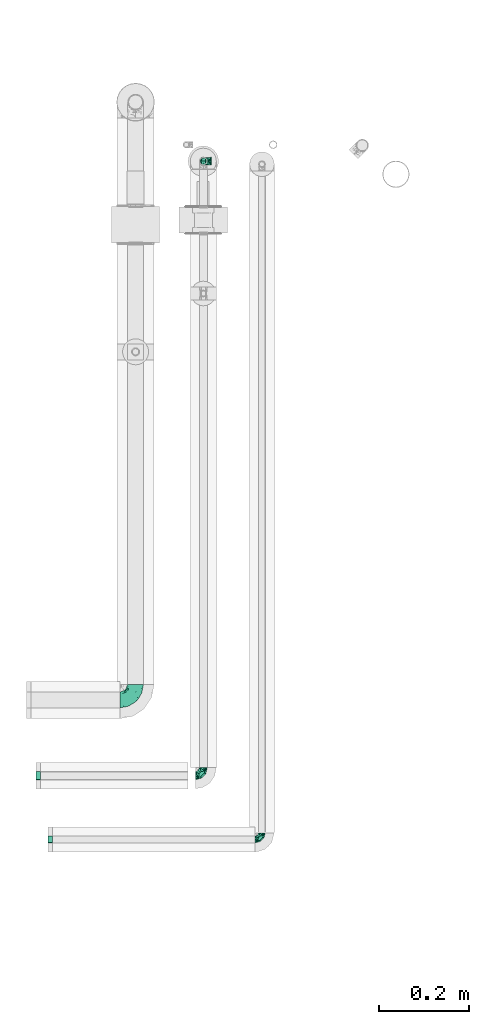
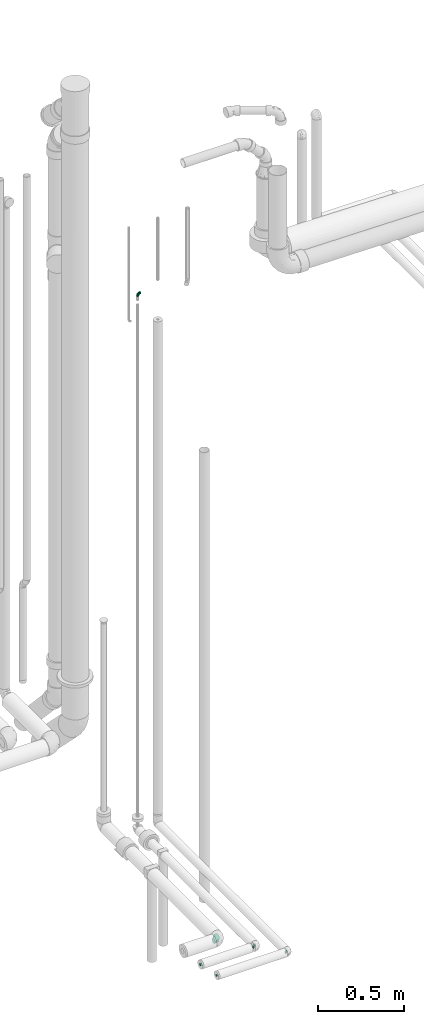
# One storey, part 39 of 78: 6 flow fittings.
"""IFC2X3 building model written with IfcOpenShell, lengths in millimetres."""

import ifcopenshell
import ifcopenshell.guid

model = None  # the IFC model being written
_history = None  # IfcOwnerHistory: only IFC2X3 demands one
_inside = {}  # id of a spatial element -> (the spatial element, [elements in it])
_under = {}  # id of a project, library or spatial element -> (it, [spatial elements below it])
_declared = {}  # id of a project -> (the project, [libraries it declares])
_typed = {}  # id of a type object -> (the type object, [elements of that type])
_made_of = {}  # id of a material, layer set ... -> (it, [elements and type objects made of it])


def new_model(schema):
    """Start an empty IFC model of exactly this schema.

    Asked for "IFC4X3", IfcOpenShell would pick the latest addendum, in which some entities
    have other attributes; the version numbers below select the first issue.
    IFC2X3 requires an IfcOwnerHistory on every rooted entity: one is made here for all.
    """
    global model, _history
    if schema == "IFC4X3":
        model = ifcopenshell.file(schema_version=(4, 3, 0, 0))
    else:
        model = ifcopenshell.file(schema=schema)
    _inside.clear()
    _under.clear()
    _declared.clear()
    _typed.clear()
    _made_of.clear()
    _history = None
    if model.schema == "IFC2X3":
        org = make("IfcOrganization", Name="unknown")
        user = make(
            "IfcPersonAndOrganization",
            ThePerson=make("IfcPerson", FamilyName="unknown"),
            TheOrganization=org,
        )
        app = make(
            "IfcApplication",
            ApplicationDeveloper=org,
            Version="unknown",
            ApplicationFullName="unknown",
            ApplicationIdentifier="unknown",
        )
        _history = make(
            "IfcOwnerHistory",
            OwningUser=user,
            OwningApplication=app,
            ChangeAction="ADDED",
            CreationDate=0,
        )
    return model


def make(cls, **values):
    """One entity of the class cls with the attributes given. An attribute that is None is left unset."""
    return model.create_entity(
        cls, **{name: value for name, value in values.items() if value is not None}
    )


def entity(cls, *values):
    """Any entity or typed value of the class cls, its attributes in the order of the schema. None: left unset."""
    e = model.create_entity(cls)
    for i, value in enumerate(values):
        if value is not None:
            e[i] = value
    return e


def rooted(cls, **values):
    """An entity with a GlobalId (a new one), such as an element, a storey or a relation."""
    return make(cls, GlobalId=ifcopenshell.guid.new(), OwnerHistory=_history, **values)


def si_unit(unit_type, name, prefix=None):
    """IfcSIUnit, for example si_unit("LENGTHUNIT", "METRE", prefix="MILLI")."""
    return make("IfcSIUnit", UnitType=unit_type, Prefix=prefix, Name=name)


def converted_unit(unit_type, name, factor, base, dimensions=None, offset=None):
    """IfcConversionBasedUnit, such as the inch: factor (a typed value) times the base unit."""
    return make(
        "IfcConversionBasedUnit"
        if offset is None
        else "IfcConversionBasedUnitWithOffset",
        ConversionOffset=offset,
        Dimensions=None
        if dimensions is None
        else entity("IfcDimensionalExponents", *dimensions),
        UnitType=unit_type,
        Name=name,
        ConversionFactor=make(
            "IfcMeasureWithUnit", ValueComponent=factor, UnitComponent=base
        ),
    )


def derived_unit(unit_type, elements):
    """IfcDerivedUnit: a product of units, each with its exponent."""
    return make(
        "IfcDerivedUnit",
        Elements=[
            make("IfcDerivedUnitElement", Unit=unit, Exponent=power)
            for unit, power in elements
        ],
        UnitType=unit_type,
    )


def assignment(units):
    """IfcUnitAssignment: the units of a project."""
    return None if units is None else make("IfcUnitAssignment", Units=units)


def point(xyz):
    """IfcCartesianPoint."""
    return None if xyz is None else make("IfcCartesianPoint", Coordinates=xyz)


def direction(xyz):
    """IfcDirection."""
    return None if xyz is None else make("IfcDirection", DirectionRatios=xyz)


def frame(location, z_axis=None, x_axis=None):
    """IfcAxis2Placement3D, a coordinate frame: its origin and axes. An axis left out is left unset."""
    return make(
        "IfcAxis2Placement3D",
        Location=point(location),
        Axis=direction(z_axis),
        RefDirection=direction(x_axis),
    )


def origin_with_axes():
    """The frame at (0, 0, 0) with the z axis (0, 0, 1) and the x axis (1, 0, 0) written out."""
    return frame((0.0, 0.0, 0.0), z_axis=(0.0, 0.0, 1.0), x_axis=(1.0, 0.0, 0.0))


def place(relative_to, where):
    """IfcLocalPlacement: puts the frame where relative to a parent placement (None: the world)."""
    return make(
        "IfcLocalPlacement", PlacementRelTo=relative_to, RelativePlacement=where
    )


def context(
    kind, dimensions, precision=None, world=None, true_north=None, identifier=None
):
    """IfcGeometricRepresentationContext, for example the 3D "Model" context."""
    return make(
        "IfcGeometricRepresentationContext",
        ContextIdentifier=identifier,
        ContextType=kind,
        CoordinateSpaceDimension=dimensions,
        Precision=precision,
        WorldCoordinateSystem=world,
        TrueNorth=true_north,
    )


def subcontext(parent, identifier, kind, view, scale=None):
    """IfcGeometricRepresentationSubContext, for example "Body" below "Model"."""
    return make(
        "IfcGeometricRepresentationSubContext",
        ContextIdentifier=identifier,
        ContextType=kind,
        ParentContext=parent,
        TargetScale=scale,
        TargetView=view,
    )


def project(units=None, contexts=None):
    """IfcProject with its units and contexts."""
    return rooted(
        "IfcProject",
        Name="project",
        RepresentationContexts=contexts,
        UnitsInContext=assignment(units),
    )


def spatial(cls, under=None, at=None, **own):
    """A site, building, storey or space (cls), placed at a placement, below another one or the project."""
    s = rooted(cls, ObjectPlacement=at, **own)
    if under is not None:
        _under.setdefault(under.id(), (under, []))[1].append(s)
    return s


def faces_of(points, faces, orient=None, outer=None):
    """IfcFace entities. A face is a list of loops; a loop is a list of indices into points, from 0.

    orient and outer hold one flag for each loop. By default every Orientation is true, the
    first loop of a face is its IfcFaceOuterBound and the others are IfcFaceBound.
    """
    made = []
    for i, loops in enumerate(faces):
        bounds = []
        for j, loop in enumerate(loops):
            is_outer = j == 0 if outer is None else outer[i][j]
            bounds.append(
                make(
                    "IfcFaceOuterBound" if is_outer else "IfcFaceBound",
                    Bound=make("IfcPolyLoop", Polygon=[points[k] for k in loop]),
                    Orientation=True if orient is None else orient[i][j],
                )
            )
        made.append(make("IfcFace", Bounds=bounds))
    return made


def open_shell(faces, orient=None, outer=None):
    """The faces of one IfcOpenShell. surface_model builds it on its shared points."""
    return ("IfcOpenShell", faces, orient, outer)


def surface_model(cls, points, shells):
    """IfcFaceBasedSurfaceModel or IfcShellBasedSurfaceModel (cls): surfaces that need not close."""
    shared = [point(p) for p in points]
    made = [make(c, CfsFaces=faces_of(shared, fs, o, b)) for c, fs, o, b in shells]
    if cls == "IfcFaceBasedSurfaceModel":
        return make(cls, FbsmFaces=made)
    return make(cls, SbsmBoundary=made)


def shape(context_of_items, identifier, shape_type, items):
    """IfcShapeRepresentation: the items that make up one representation, for example the "Body"."""
    return make(
        "IfcShapeRepresentation",
        ContextOfItems=context_of_items,
        RepresentationIdentifier=identifier,
        RepresentationType=shape_type,
        Items=items,
    )


def source(mapping_origin, context_of_items, identifier, shape_type, items):
    """IfcRepresentationMap: a shape defined once, which mapped items show again and again."""
    return make(
        "IfcRepresentationMap",
        MappingOrigin=mapping_origin,
        MappedRepresentation=shape(context_of_items, identifier, shape_type, items),
    )


def transform(
    local_origin,
    x_axis=None,
    y_axis=None,
    z_axis=None,
    scale=None,
    scale2=None,
    scale3=None,
    uniform=True,
):
    """IfcCartesianTransformationOperator3D, or its non-uniform kind. x_axis, y_axis, z_axis: its Axis1, 2, 3."""
    if uniform:
        return make(
            "IfcCartesianTransformationOperator3D",
            Axis1=direction(x_axis),
            Axis2=direction(y_axis),
            LocalOrigin=point(local_origin),
            Scale=scale,
            Axis3=direction(z_axis),
        )
    return make(
        "IfcCartesianTransformationOperator3DnonUniform",
        Axis1=direction(x_axis),
        Axis2=direction(y_axis),
        LocalOrigin=point(local_origin),
        Scale=scale,
        Axis3=direction(z_axis),
        Scale2=scale2,
        Scale3=scale3,
    )


def mapped(mapping_source, mapping_target):
    """IfcMappedItem: shows the shape of a source again, moved by a transform."""
    return make(
        "IfcMappedItem", MappingSource=mapping_source, MappingTarget=mapping_target
    )


def made_of(thing, what):
    """Note that an element or type object is made of a material, layer set ...; save() writes the relation."""
    if what is not None:
        _made_of.setdefault(what.id(), (what, []))[1].append(thing)
    return thing


def type_object(cls, material=None, **own):
    """A type object (cls), such as IfcWallType, which elements share."""
    return made_of(rooted(cls, **own), material)


def element(
    cls,
    number,
    at=None,
    inside=None,
    cuts=None,
    type_object=None,
    material=None,
    context=None,
    identifier="Body",
    shape_type=None,
    held_by="IfcProductDefinitionShape",
    body=None,
    shapes=None,
    **own,
):
    """One element of the class cls, such as IfcWall. Its Tag is "e" and its number.

    at: its placement. inside: the storey or other place that contains it. cuts: it is an
    opening in that element (IfcRelVoidsElement). A single representation is given by context,
    identifier, shape_type and body (its items); several are given by shapes. held_by: the class
    of the entity that holds the representations. save() writes the other relations.
    """
    e = rooted(cls, Tag="e%d" % number, ObjectPlacement=at, **own)
    if body is not None:
        shapes = [shape(context, identifier, shape_type, body)]
    if shapes is not None:
        e.Representation = make(held_by, Representations=shapes)
    if inside is not None:
        _inside.setdefault(inside.id(), (inside, []))[1].append(e)
    if cuts is not None:
        rooted(
            "IfcRelVoidsElement", RelatingBuildingElement=cuts, RelatedOpeningElement=e
        )
    if type_object is not None:
        _typed.setdefault(type_object.id(), (type_object, []))[1].append(e)
    return made_of(e, material)


def aggregate(whole, parts):
    """IfcRelAggregates: a whole, such as a stair, and the parts it consists of."""
    return rooted("IfcRelAggregates", RelatingObject=whole, RelatedObjects=parts)


def save(model, path):
    """Write the relations noted so far, then the file.

    IfcRelAggregates (storeys below a building ...), IfcRelContainedInSpatialStructure (elements
    in a storey), IfcRelDefinesByType, IfcRelAssociatesMaterial and IfcRelDeclares: one each for
    every whole, place, type object, material and project.
    """
    for whole, parts in _under.values():
        aggregate(whole, parts)
    for where, things in _inside.values():
        rooted(
            "IfcRelContainedInSpatialStructure",
            RelatedElements=things,
            RelatingStructure=where,
        )
    for kind, things in _typed.values():
        rooted("IfcRelDefinesByType", RelatedObjects=things, RelatingType=kind)
    for what, things in _made_of.values():
        rooted("IfcRelAssociatesMaterial", RelatedObjects=things, RelatingMaterial=what)
    for by, libraries in _declared.values():
        rooted("IfcRelDeclares", RelatingContext=by, RelatedDefinitions=libraries)
    model.write(path)


model = new_model("IFC2X3")

# Units and contexts
model_context = context("Model", 3, precision=0.01, world=frame((0.0, 4.29681676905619e-09, 0.0)), true_north=direction((4.01073788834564e-13, 1.0)))
plan_context = context("Plan", 3, precision=0.01, world=frame((0.0, 4.29681676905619e-09, 0.0)), true_north=direction((4.01073788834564e-13, 1.0)))
body_context = subcontext(model_context, "Body", "Model", "MODEL_VIEW")
ifc_project = project(units=[converted_unit("PLANEANGLEUNIT", "DEGREE", entity("IfcPositiveLengthMeasure", 0.0174532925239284), si_unit("PLANEANGLEUNIT", "RADIAN"), dimensions=[0, 0, 0, 0, 0, 0, 0]), si_unit("AREAUNIT", "SQUARE_METRE"), si_unit("LENGTHUNIT", "METRE", prefix="MILLI"), si_unit("MASSUNIT", "GRAM", prefix="KILO"), si_unit("POWERUNIT", "WATT"), si_unit("PRESSUREUNIT", "PASCAL"), si_unit("FORCEUNIT", "NEWTON", prefix="KILO"), si_unit("ELECTRICVOLTAGEUNIT", "VOLT"), si_unit("ELECTRICCURRENTUNIT", "AMPERE"), si_unit("THERMODYNAMICTEMPERATUREUNIT", "DEGREE_CELSIUS"), si_unit("TIMEUNIT", "SECOND"), si_unit("VOLUMEUNIT", "CUBIC_METRE"), derived_unit("LINEARVELOCITYUNIT", [(si_unit("LENGTHUNIT", "METRE"), 1), (si_unit("TIMEUNIT", "SECOND"), -1)]), derived_unit("VOLUMETRICFLOWRATEUNIT", [(si_unit("VOLUMEUNIT", "CUBIC_METRE"), 1), (si_unit("TIMEUNIT", "SECOND"), -1)]), derived_unit("THERMALTRANSMITTANCEUNIT", [(si_unit("POWERUNIT", "WATT"), 1), (si_unit("THERMODYNAMICTEMPERATUREUNIT", "KELVIN"), -1), (si_unit("AREAUNIT", "SQUARE_METRE"), -1)]), derived_unit("SOUNDPRESSUREUNIT", [(si_unit("PRESSUREUNIT", "PASCAL"), 1)])], contexts=[model_context, plan_context])

# Site, building, storey
site_placement = place(None, frame((0.0, -4.29681676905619e-09, 0.0), z_axis=(0.0, 0.0, 1.0), x_axis=(1.0, 0.0, 0.0)))
site = spatial("IfcSite", under=ifc_project, at=site_placement, Name="ENGM", CompositionType="ELEMENT")
building_placement = place(site_placement, frame((0.0, 4.29681676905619e-09, 0.0), z_axis=(0.0, 0.0, 1.0), x_axis=(1.0, 0.0, 0.0)))
building = spatial("IfcBuilding", under=site, at=building_placement, Name="TH", CompositionType="ELEMENT")
storey_placement = place(building_placement, frame((0.0, 0.0, 205200.0), z_axis=(0.0, 0.0, 1.0), x_axis=(1.0, 0.0, 0.0)))
storey = spatial("IfcBuildingStorey", under=building, at=storey_placement, Name="Nivå D + 1,2 m", CompositionType="ELEMENT", Elevation=205200.0)

# Flow fittings
pipe_fitting_type_1 = type_object("IfcPipeFittingType", Name="magi_pipe_cu_elbow_short_001", PredefinedType="BEND")
shared_shape_1 = source(origin_with_axes(), body_context, "Body", "SurfaceModel", [
    surface_model("IfcShellBasedSurfaceModel", [(-18.0, 4.5, -7.79423), (-18.0, 2.32937, -8.69333), (-18.0, 0.0, -9.0), (-18.0, -6.36396, -6.36396), (-18.0, 8.69333, -2.32937), (-18.0, 7.79423, -4.5), (-18.0, 6.36396, -6.36396), (-18.0, -4.5, -7.79423), (-18.0, -2.32937, -8.69333), (-18.0, -7.79423, -4.5), (-18.0, -8.69333, -2.32937), (-18.0, -9.0, 0.0), (-18.0, 8.69333, 2.32937), (-18.0, -8.69333, 2.32937), (-18.0, 7.79423, 4.5), (-18.0, 6.36396, 6.36396), (-18.0, 2.32937, 8.69333), (-18.0, 4.5, 7.79423), (-18.0, -7.79423, 4.5), (-18.0, -6.36396, 6.36396), (-18.0, -4.5, 7.79423), (-18.0, -2.32937, 8.69333), (-18.0, 0.0, 9.0), (-18.0, 9.0, 0.0), (0.0, 18.0, -9.0), (-2.32937, 18.0, -8.69333), (-4.5, 18.0, -7.79423), (6.36396, 18.0, -6.36396), (-6.36396, 18.0, -6.36396), (-7.79423, 18.0, -4.5), (-8.69333, 18.0, -2.32937), (-8.69333, 18.0, 2.32937), (2.32937, 18.0, -8.69333), (4.5, 18.0, -7.79423), (8.69333, 18.0, -2.32937), (7.79423, 18.0, -4.5), (9.0, 18.0, 0.0), (7.79423, 18.0, 4.5), (-9.0, 18.0, 0.0), (-6.36396, 18.0, 6.36396), (-7.79423, 18.0, 4.5), (-4.5, 18.0, 7.79423), (-2.32937, 18.0, 8.69333), (6.36396, 18.0, 6.36396), (8.69333, 18.0, 2.32937), (2.32937, 18.0, 8.69333), (4.5, 18.0, 7.79423), (0.0, 18.0, 9.0), (-16.09014, -8.48825, 0.0), (-10.51068, -2.97249, 7.92278), (-10.36056, -6.95302, 0.0), (-4.5, -5.38269, 0.0), (0.44134, -0.44134, 0.0), (2.91201, 2.02933, 0.0), (-2.70211, 1.18586, 7.65564), (-2.02933, -2.91201, 0.0), (-14.18028, -7.97651, 0.0), (-7.11648, 7.11648, 8.61373), (-4.93977, 9.63211, 8.64898), (2.97249, 10.51068, 7.92278), (2.01286, 5.84889, 7.1903), (5.38269, 4.5, 0.0), (-5.73616, -2.07922, 7.10204), (8.48825, 16.09014, 0.0), (7.97651, 14.18028, 0.0), (-9.63211, 4.93977, 8.64898), (-10.31802, 14.81802, 0.0), (-14.81802, 10.31802, 0.0), (-11.63604, 11.63604, 0.0), (6.95302, 10.36056, 0.0), (-10.51068, -2.97249, -7.92278), (-4.93977, 9.63211, -8.64898), (0.8585, 4.1248, -7.1903), (-2.68792, 2.14037, -8.03971), (2.97249, 10.51068, -7.92278), (-13.67048, 7.29638, -6.27272), (-8.50355, 2.18787, -8.98901), (-9.83427, 8.11209, -7.36254)], [open_shell([[[0, 1, 2]], [[0, 2, 3]], [[0, 4, 5]], [[6, 0, 5]], [[4, 0, 3]], [[7, 3, 8]], [[3, 2, 8]], [[9, 10, 3]], [[11, 3, 10]], [[3, 11, 4]], [[11, 12, 4]], [[12, 11, 13]], [[14, 12, 15]], [[16, 17, 15]], [[13, 15, 12]], [[15, 18, 16]], [[18, 19, 16]], [[15, 13, 18]], [[20, 21, 19]], [[22, 19, 21]], [[16, 19, 22]], [[23, 4, 12]], [[24, 25, 26]], [[27, 24, 26]], [[28, 29, 30]], [[28, 30, 26]], [[26, 31, 27]], [[32, 27, 33]], [[32, 24, 27]], [[27, 34, 35]], [[34, 27, 36]], [[27, 37, 36]], [[26, 30, 38]], [[27, 31, 37]], [[39, 31, 40]], [[39, 41, 42]], [[39, 42, 31]], [[43, 31, 42]], [[31, 43, 37]], [[44, 36, 37]], [[43, 45, 46]], [[45, 43, 47]], [[47, 43, 42]], [[31, 26, 38]], [[13, 48, 18]], [[49, 50, 51]], [[52, 53, 54]], [[54, 55, 52]], [[20, 19, 56]], [[18, 56, 19]], [[57, 54, 58]], [[20, 50, 21]], [[22, 21, 50]], [[59, 60, 61]], [[59, 58, 60]], [[55, 54, 62]], [[22, 50, 49]], [[22, 49, 16]], [[62, 49, 51]], [[62, 51, 55]], [[37, 63, 44]], [[49, 17, 16]], [[64, 63, 37]], [[12, 65, 23]], [[14, 15, 49]], [[54, 65, 62]], [[17, 49, 15]], [[58, 38, 66]], [[67, 57, 68]], [[53, 60, 54]], [[45, 47, 69]], [[69, 46, 45]], [[39, 59, 41]], [[42, 59, 47]], [[43, 46, 64]], [[68, 57, 66]], [[64, 46, 69]], [[61, 60, 53]], [[44, 63, 36]], [[59, 61, 69]], [[38, 58, 31]], [[20, 56, 50]], [[54, 57, 65]], [[49, 65, 14]], [[66, 57, 58]], [[64, 37, 43]], [[40, 31, 58]], [[14, 65, 12]], [[39, 40, 59]], [[13, 11, 48]], [[40, 58, 59]], [[48, 56, 18]], [[41, 59, 42]], [[59, 69, 47]], [[49, 62, 65]], [[57, 67, 65]], [[54, 60, 58]], [[67, 23, 65]], [[70, 50, 2]], [[71, 72, 73]], [[74, 71, 29]], [[70, 1, 0]], [[70, 51, 50]], [[34, 36, 63]], [[75, 6, 5]], [[75, 4, 23]], [[5, 4, 75]], [[51, 76, 55]], [[75, 23, 67]], [[70, 6, 75]], [[48, 11, 10]], [[7, 56, 3]], [[2, 50, 8]], [[51, 70, 76]], [[56, 7, 50]], [[7, 8, 50]], [[70, 2, 1]], [[66, 38, 71]], [[52, 72, 53]], [[6, 70, 0]], [[70, 75, 76]], [[73, 52, 55]], [[71, 68, 66]], [[61, 53, 72]], [[33, 64, 69]], [[30, 71, 38]], [[28, 74, 29]], [[56, 9, 3]], [[26, 25, 74]], [[63, 64, 35]], [[56, 48, 9]], [[26, 74, 28]], [[9, 48, 10]], [[24, 74, 25]], [[32, 69, 24]], [[29, 71, 30]], [[27, 64, 33]], [[69, 32, 33]], [[68, 71, 77]], [[74, 24, 69]], [[35, 34, 63]], [[61, 72, 74]], [[61, 74, 69]], [[67, 77, 75]], [[74, 72, 71]], [[35, 64, 27]], [[76, 77, 73]], [[75, 77, 76]], [[77, 71, 73]], [[55, 76, 73]], [[72, 52, 73]], [[77, 67, 68]]])]),
])
for number, where, z_axis, x_axis, name in (
    (1, (895520.48466, 478549.2375, 8240.0), (0.0, 1.0, 0.0), (0.0, 0.0, 1.0), "magi_pipe_cu_elbow_short_001"),
    (2, (895520.48466, 477179.63068, 4450.0), (0.0, 0.0, 1.0), (1.0, 0.0, 0.0), "magi_pipe_cu_elbow_short_001"),
):
    element("IfcFlowFitting", number, at=place(storey_placement, frame(where, z_axis=z_axis, x_axis=x_axis)), inside=storey, type_object=pipe_fitting_type_1, Name=name, context=body_context, shape_type="MappedRepresentation", body=[
        mapped(shared_shape_1, transform((0.0, 0.0, 0.0), scale=1.0)),
    ])
pipe_fitting_type_2 = type_object("IfcPipeFittingType", Name="magi_pipe_cu_joint_001", PredefinedType="CONNECTOR")
shared_shape_2 = source(origin_with_axes(), body_context, "Body", "SurfaceModel", [
    surface_model("IfcShellBasedSurfaceModel", [(0.0, 4.5, -7.79423), (0.0, 2.32937, -8.69333), (0.0, 0.0, -9.0), (0.0, -9.0, 0.0), (0.0, -4.5, 7.79423), (0.0, 6.36396, -6.36396), (0.0, 7.79423, -4.5), (0.0, 9.0, 0.0), (0.0, -4.5, -7.79423), (0.0, -6.36396, -6.36396), (0.0, -2.32937, -8.69333), (0.0, -7.79423, -4.5), (0.0, -8.69333, -2.32937), (0.0, 8.69333, -2.32937), (0.0, 8.69333, 2.32937), (0.0, 2.32937, 8.69333), (0.0, 7.79423, 4.5), (0.0, 4.5, 7.79423), (0.0, 6.36396, 6.36396), (0.0, 0.0, 9.0), (0.0, -6.36396, 6.36396), (0.0, -7.79423, 4.5), (0.0, -8.69333, 2.32937), (0.0, -2.32937, 8.69333), (10.0, 0.0, -9.0), (10.0, 2.32937, -8.69333), (10.0, 4.5, -7.79423), (10.0, -9.0, 0.0), (10.0, -4.5, 7.79423), (10.0, 7.79423, -4.5), (10.0, 6.36396, -6.36396), (10.0, 8.69333, 2.32937), (10.0, -4.5, -7.79423), (10.0, -2.32937, -8.69333), (10.0, -6.36396, -6.36396), (10.0, -8.69333, -2.32937), (10.0, -7.79423, -4.5), (10.0, 8.69333, -2.32937), (10.0, 9.0, 0.0), (10.0, 2.32937, 8.69333), (10.0, 7.79423, 4.5), (10.0, 4.5, 7.79423), (10.0, 6.36396, 6.36396), (10.0, -7.79423, 4.5), (10.0, -6.36396, 6.36396), (10.0, -8.69333, 2.32937), (10.0, 0.0, 9.0), (10.0, -2.32937, 8.69333)], [open_shell([[[0, 1, 2]], [[2, 3, 4]], [[0, 2, 4]], [[5, 0, 6]], [[7, 6, 0]], [[8, 9, 10]], [[9, 2, 10]], [[11, 12, 9]], [[3, 9, 12]], [[9, 3, 2]], [[7, 13, 6]], [[14, 7, 15]], [[16, 14, 15]], [[16, 15, 17]], [[18, 16, 17]], [[19, 15, 7]], [[20, 4, 21]], [[3, 22, 21]], [[23, 19, 4]], [[21, 4, 3]], [[0, 4, 19]], [[19, 7, 0]], [[24, 25, 26]], [[27, 24, 26]], [[27, 26, 28]], [[29, 26, 30]], [[26, 29, 31]], [[24, 32, 33]], [[24, 34, 32]], [[34, 35, 36]], [[35, 34, 27]], [[24, 27, 34]], [[29, 37, 38]], [[28, 26, 31]], [[39, 31, 40]], [[41, 39, 40]], [[41, 40, 42]], [[28, 31, 39]], [[43, 28, 44]], [[43, 45, 27]], [[28, 46, 47]], [[27, 28, 43]], [[39, 46, 28]], [[29, 38, 31]], [[45, 3, 27]], [[43, 22, 45]], [[20, 44, 28]], [[43, 44, 21]], [[4, 28, 47]], [[43, 21, 22]], [[22, 3, 45]], [[23, 46, 19]], [[23, 4, 47]], [[20, 28, 4]], [[20, 21, 44]], [[46, 23, 47]], [[41, 15, 39]], [[42, 17, 41]], [[16, 40, 31]], [[42, 40, 18]], [[14, 31, 38]], [[41, 17, 15]], [[15, 19, 39]], [[14, 16, 31]], [[18, 40, 16]], [[18, 17, 42]], [[7, 14, 38]], [[39, 19, 46]], [[37, 7, 38]], [[29, 13, 37]], [[5, 30, 26]], [[29, 30, 6]], [[0, 26, 25]], [[29, 6, 13]], [[13, 7, 37]], [[1, 24, 2]], [[1, 0, 25]], [[5, 26, 0]], [[5, 6, 30]], [[24, 1, 25]], [[32, 10, 33]], [[34, 8, 32]], [[11, 36, 35]], [[34, 36, 9]], [[12, 35, 27]], [[32, 8, 10]], [[10, 2, 33]], [[12, 11, 35]], [[9, 36, 11]], [[9, 8, 34]], [[3, 12, 27]], [[33, 2, 24]]])]),
])
flow_fitting_1_placement = place(storey_placement, frame((895147.49734, 477179.65305, 4450.0), z_axis=(0.0, 0.0, 1.0), x_axis=(1.0, 0.0, 0.0)))
element("IfcFlowFitting", 3, at=flow_fitting_1_placement, inside=storey, type_object=pipe_fitting_type_2, Name="magi_pipe_cu_joint_001", context=body_context, shape_type="MappedRepresentation", body=[
    mapped(shared_shape_2, transform((0.0, 0.0, 0.0), scale=1.0)),
])
shared_shape_3 = source(origin_with_axes(), body_context, "Body", "SurfaceModel", [
    surface_model("IfcShellBasedSurfaceModel", [(-15.0, 0.0, -7.5), (-15.0, -6.49519, -3.75), (-15.0, 1.94114, -7.24444), (-15.0, 3.75, -6.49519), (-15.0, 5.3033, -5.3033), (-15.0, 7.24444, -1.94114), (-15.0, 6.49519, -3.75), (-15.0, -5.3033, -5.3033), (-15.0, -3.75, -6.49519), (-15.0, -1.94114, -7.24444), (-15.0, -7.24444, -1.94114), (-15.0, -7.5, 0.0), (-15.0, -6.49519, 3.75), (-15.0, 7.24444, 1.94114), (-15.0, 6.49519, 3.75), (-15.0, 3.75, 6.49519), (-15.0, 1.94114, 7.24444), (-15.0, 5.3033, 5.3033), (-15.0, -5.3033, 5.3033), (-15.0, -7.24444, 1.94114), (-15.0, -1.94114, 7.24444), (-15.0, 0.0, 7.5), (-15.0, -3.75, 6.49519), (-15.0, 7.5, 0.0), (-1.94114, 15.0, -7.24444), (6.49519, 15.0, -3.75), (0.0, 15.0, -7.5), (-5.3033, 15.0, -5.3033), (-3.75, 15.0, -6.49519), (-6.49519, 15.0, -3.75), (-7.24444, 15.0, -1.94114), (3.75, 15.0, -6.49519), (5.3033, 15.0, -5.3033), (1.94114, 15.0, -7.24444), (7.5, 15.0, 0.0), (7.24444, 15.0, -1.94114), (-7.5, 15.0, 0.0), (-7.24444, 15.0, 1.94114), (-6.49519, 15.0, 3.75), (-3.75, 15.0, 6.49519), (-1.94114, 15.0, 7.24444), (-5.3033, 15.0, 5.3033), (5.3033, 15.0, 5.3033), (6.49519, 15.0, 3.75), (7.24444, 15.0, 1.94114), (3.75, 15.0, 6.49519), (0.0, 15.0, 7.5), (1.94114, 15.0, 7.24444), (-13.40845, -7.07355, 0.0), (-8.7589, -2.47707, 6.60232), (-8.6338, -5.79418, 0.0), (-3.75, -4.48557, 0.0), (0.36779, -0.36779, 0.0), (2.42668, 1.69111, 0.0), (-2.25176, 0.98822, 6.3797), (-1.69111, -2.42668, 0.0), (-11.8169, -6.64709, 0.0), (-5.9304, 5.9304, 7.17811), (-4.11647, 8.02676, 7.20749), (2.47708, 8.7589, 6.60232), (1.67739, 4.87408, 5.99192), (4.48557, 3.75, 0.0), (-4.78013, -1.73268, 5.91836), (7.07355, 13.40845, 0.0), (6.64709, 11.8169, 0.0), (-8.02675, 4.11647, 7.20749), (-8.59835, 12.34835, 0.0), (-12.34835, 8.59835, 0.0), (-9.6967, 9.6967, 0.0), (5.79418, 8.6338, 0.0), (-8.7589, -2.47707, -6.60232), (-4.11647, 8.02676, -7.20749), (0.71542, 3.43733, -5.99192), (-2.23993, 1.78364, -6.69976), (2.47708, 8.7589, -6.60232), (-11.39207, 6.08032, -5.22727), (-7.08629, 1.82323, -7.49084), (-8.19523, 6.76007, -6.13545)], [open_shell([[[0, 1, 2]], [[3, 2, 4]], [[5, 6, 4]], [[4, 2, 1]], [[5, 4, 1]], [[7, 1, 8]], [[9, 8, 1]], [[10, 11, 1]], [[0, 9, 1]], [[11, 12, 1]], [[12, 5, 1]], [[13, 5, 12]], [[14, 13, 15]], [[13, 16, 15]], [[17, 14, 15]], [[16, 13, 12]], [[12, 18, 16]], [[12, 11, 19]], [[20, 21, 22]], [[18, 22, 21]], [[16, 18, 21]], [[13, 23, 5]], [[24, 25, 26]], [[27, 24, 28]], [[27, 29, 30]], [[25, 24, 27]], [[25, 27, 30]], [[31, 25, 32]], [[25, 31, 33]], [[25, 34, 35]], [[25, 33, 26]], [[30, 34, 25]], [[30, 36, 34]], [[36, 37, 38]], [[36, 38, 39]], [[40, 34, 39]], [[39, 38, 41]], [[40, 42, 34]], [[42, 43, 34]], [[44, 34, 43]], [[45, 46, 47]], [[45, 42, 40]], [[45, 40, 46]], [[39, 34, 36]], [[19, 48, 12]], [[49, 50, 51]], [[52, 53, 54]], [[54, 55, 52]], [[22, 18, 56]], [[12, 56, 18]], [[57, 54, 58]], [[22, 50, 20]], [[21, 20, 50]], [[59, 60, 61]], [[59, 58, 60]], [[55, 54, 62]], [[21, 50, 49]], [[21, 49, 16]], [[62, 49, 51]], [[62, 51, 55]], [[43, 63, 44]], [[49, 15, 16]], [[64, 63, 43]], [[13, 65, 23]], [[14, 17, 49]], [[54, 65, 62]], [[15, 49, 17]], [[57, 58, 66]], [[67, 57, 68]], [[53, 60, 54]], [[47, 46, 69]], [[69, 45, 47]], [[41, 59, 39]], [[40, 59, 46]], [[42, 45, 64]], [[54, 60, 58]], [[64, 45, 69]], [[61, 60, 53]], [[44, 63, 34]], [[59, 61, 69]], [[58, 36, 66]], [[22, 56, 50]], [[54, 57, 65]], [[49, 65, 14]], [[37, 36, 58]], [[64, 43, 42]], [[38, 37, 58]], [[14, 65, 13]], [[41, 38, 59]], [[19, 11, 48]], [[38, 58, 59]], [[48, 56, 12]], [[39, 59, 40]], [[59, 69, 46]], [[49, 62, 65]], [[57, 67, 65]], [[66, 68, 57]], [[67, 23, 65]], [[70, 50, 0]], [[71, 72, 73]], [[74, 71, 29]], [[70, 2, 3]], [[70, 51, 50]], [[35, 34, 63]], [[75, 4, 6]], [[75, 5, 23]], [[6, 5, 75]], [[51, 76, 55]], [[75, 23, 67]], [[70, 4, 75]], [[48, 11, 10]], [[8, 56, 7]], [[0, 50, 9]], [[51, 70, 76]], [[56, 8, 50]], [[8, 9, 50]], [[70, 0, 2]], [[66, 36, 71]], [[52, 72, 53]], [[4, 70, 3]], [[70, 75, 76]], [[73, 52, 55]], [[71, 68, 66]], [[61, 53, 72]], [[31, 64, 69]], [[30, 71, 36]], [[27, 74, 29]], [[56, 1, 7]], [[28, 24, 74]], [[63, 64, 25]], [[56, 48, 1]], [[28, 74, 27]], [[1, 48, 10]], [[26, 74, 24]], [[33, 69, 26]], [[29, 71, 30]], [[32, 64, 31]], [[69, 33, 31]], [[68, 71, 77]], [[74, 26, 69]], [[25, 35, 63]], [[61, 72, 74]], [[61, 74, 69]], [[67, 77, 75]], [[74, 72, 71]], [[25, 64, 32]], [[76, 77, 73]], [[75, 77, 76]], [[77, 71, 73]], [[55, 76, 73]], [[72, 52, 73]], [[77, 67, 68]]])]),
])
flow_fitting_2_placement = place(storey_placement, frame((895651.15, 477037.61197, 4450.0), z_axis=(0.0, 0.0, 1.0), x_axis=(1.0, 0.0, 0.0)))
element("IfcFlowFitting", 4, at=flow_fitting_2_placement, inside=storey, type_object=pipe_fitting_type_1, Name="magi_pipe_cu_elbow_short_001", context=body_context, shape_type="MappedRepresentation", body=[
    mapped(shared_shape_3, transform((0.0, 0.0, 0.0), scale=1.0)),
])
shared_shape_4 = source(origin_with_axes(), body_context, "Body", "SurfaceModel", [
    surface_model("IfcShellBasedSurfaceModel", [(-35.0, 8.75, -15.15544), (-35.0, 4.52933, -16.9037), (-35.0, 0.0, -17.5), (-35.0, 12.37437, -12.37437), (-35.0, 15.15544, -8.75), (-35.0, -8.75, -15.15544), (-35.0, -8.75, 15.15544), (-35.0, -12.37437, -12.37437), (-35.0, -4.52933, -16.9037), (-35.0, -16.9037, -4.52933), (-35.0, -17.5, 0.0), (-35.0, -15.15544, -8.75), (-35.0, -16.9037, 4.52933), (-35.0, 17.5, 0.0), (-35.0, 16.9037, -4.52933), (-35.0, 12.37437, 12.37437), (-35.0, 16.9037, 4.52933), (-35.0, 15.15544, 8.75), (-35.0, 4.52933, 16.9037), (-35.0, 8.75, 15.15544), (-35.0, 0.0, 17.5), (-35.0, -15.15544, 8.75), (-35.0, -12.37437, 12.37437), (-35.0, -4.52933, 16.9037), (0.0, 35.0, -17.5), (-4.52933, 35.0, -16.9037), (-8.75, 35.0, -15.15544), (-12.37437, 35.0, -12.37437), (8.75, 35.0, -15.15544), (16.9037, 35.0, 4.52933), (-15.15544, 35.0, -8.75), (8.75, 35.0, 15.15544), (12.37437, 35.0, -12.37437), (4.52933, 35.0, -16.9037), (15.15544, 35.0, -8.75), (17.5, 35.0, 0.0), (16.9037, 35.0, -4.52933), (-16.9037, 35.0, -4.52933), (-17.5, 35.0, 0.0), (-16.9037, 35.0, 4.52933), (-12.37437, 35.0, 12.37437), (-15.15544, 35.0, 8.75), (-8.75, 35.0, 15.15544), (-4.52933, 35.0, 16.9037), (0.0, 35.0, 17.5), (12.37437, 35.0, 12.37437), (15.15544, 35.0, 8.75), (4.52933, 35.0, 16.9037), (-25.67415, -13.59559, 9.82403), (-22.98078, -10.09634, 13.04024), (-24.95456, -15.50184, 0.0), (-15.46973, -11.14466, 8.83253), (-23.25837, -15.27419, 5.4579), (15.27419, 23.25837, 5.4579), (12.34847, 13.7089, 4.48617), (13.50368, 14.90912, 0.0), (7.98773, 14.17445, 11.96929), (10.09634, 22.98078, 13.04024), (4.24731, 13.52067, 14.53865), (-25.72197, -6.61751, 15.74462), (-26.7344, -2.31827, 17.20071), (-24.50568, 2.68251, 17.47017), (-27.44516, 14.56448, 11.47495), (-25.07215, 18.29076, 8.00088), (-30.6355, 16.43299, 7.25145), (-6.39301, -7.81339, 0.0), (-13.7089, -12.34847, 4.48617), (-14.90912, -13.50368, 0.0), (-18.44681, 19.54381, 12.39604), (-6.53243, 30.18634, 16.39188), (-2.39845, 26.17753, 17.45702), (-30.27731, 10.5977, 14.25942), (-1.50603, -2.9583, 7.8851), (-0.29331, 0.3611, 10.4535), (-5.9488, -4.19077, 10.78186), (-4.56799, 11.72104, 17.18321), (-8.69539, 3.21041, 16.34147), (-1.78778, 9.45477, 16.08229), (-18.0168, 25.63227, 7.92136), (-27.12223, 20.76308, 0.0), (-29.14442, 17.91065, 4.40976), (-26.97638, 6.86342, 16.53125), (-6.08206, 17.20948, 17.4686), (-12.9625, 12.9625, 17.07479), (-10.42039, 7.64736, 17.40986), (-3.126, 3.126, 14.30773), (-13.52067, -4.24732, 14.53865), (-17.42289, -0.15705, 16.96193), (11.14466, 15.46973, 8.83253), (13.59559, 25.67415, 9.82403), (6.61751, 25.72197, 15.74462), (2.31827, 26.7344, 17.20071), (-14.17445, -7.98773, 11.96929), (15.50184, 24.95456, 0.0), (-7.56843, 23.71293, 16.6663), (-11.05874, 27.1034, 14.50532), (-13.23678, 18.91785, 15.59535), (-14.3786, 23.24943, 13.39158), (-18.69025, 15.70341, 14.54296), (-23.93728, 20.79474, 4.17293), (-22.62563, 22.62563, 0.0), (-19.21704, 26.38748, 4.0702), (-14.44673, 27.90403, 11.42459), (-19.23031, 7.49607, 17.18683), (-17.1721, 4.28825, 17.49253), (-18.60453, 11.87421, 16.18647), (-10.19404, 18.16587, 16.76415), (0.15705, 17.42289, 16.96193), (-24.0983, 11.8793, 14.7368), (3.98505, 6.07834, 11.08478), (-8.30597, -7.81197, 8.21438), (1.03907, -2.27302, 4.73653), (5.31423, 3.11691, 6.11155), (5.42771, 1.81659, 2.62257), (9.0136, 7.29975, 4.13354), (-20.76308, 27.12223, 0.0), (8.78644, 9.07824, 7.34478), (-4.71659, -6.95924, 5.08102), (2.12311, -2.12311, 0.0), (7.81339, 6.39301, 0.0), (-27.70384, 2.21276, -17.44304), (-15.139, 25.6163, -11.67774), (-29.4629, -13.93098, -10.16755), (-26.92794, 6.87113, -16.53331), (-23.88622, 20.75741, -4.41333), (-14.29664, -4.41648, -14.68212), (-15.19601, -0.21829, -16.64455), (-7.03127, -0.29284, -14.33943), (-25.40695, 11.47437, -14.63597), (-27.66913, 14.50571, -11.45035), (10.45516, 25.31793, -13.21276), (6.03943, 22.16202, -15.56409), (6.89903, 29.55572, -15.927), (-21.10543, 16.03689, -13.19848), (12.97763, 21.9883, -9.47862), (12.99032, 16.23155, -5.74578), (10.09843, 13.35052, -8.97101), (-16.20755, 20.33949, -13.47528), (-12.46256, 21.39865, -15.19771), (-16.17359, 16.17359, -15.36562), (-26.47317, -15.80391, 0.0), (-25.52983, -15.66647, -5.70515), (13.93098, 29.4629, -10.16755), (15.66647, 25.52983, -5.70515), (-7.61553, -8.60518, -5.85642), (-16.23155, -12.99032, -5.74578), (-25.31793, -10.45516, -13.21276), (0.17109, 0.42769, -10.06227), (-5.90918, -5.51991, -9.20861), (-5.32113, -2.45619, -11.9452), (-21.9883, -12.97763, -9.47862), (0.73672, 8.22048, -14.5942), (0.21829, 15.19601, -16.64455), (3.61692, 14.93995, -15.28797), (-25.7831, -2.20653, -17.18003), (-29.55572, -6.89903, -15.927), (-19.09867, -7.99059, -13.74068), (2.20653, 25.7831, -17.18003), (-29.66035, 18.06344, -2.9959), (1.76053, -1.33292, -5.27593), (-17.15897, 27.77164, -7.62747), (-18.31862, 28.40001, -3.89769), (-13.35052, -10.09843, -8.97101), (-6.17792, 6.17792, -16.5247), (-21.26622, 20.80683, -8.58416), (-2.21276, 27.70384, -17.44304), (-7.14365, 25.46075, -16.59474), (-10.98399, 27.47352, -14.47678), (-22.16202, -6.03943, -15.56409), (3.03601, 6.10561, -11.96956), (7.13869, 13.06641, -12.24206), (5.77868, 6.1646, -9.10678), (-4.13696, 19.27897, -17.49622), (8.60518, 7.61553, -5.85642), (-9.46274, 10.21159, -17.49007), (-10.35485, 16.58999, -16.97913), (-17.27815, 10.12754, -16.92218), (-27.97841, 17.20134, -7.38292), (15.80391, 26.47317, 0.0), (-19.27898, 4.13695, -17.49622), (-20.06282, 28.81281, 0.0), (-13.06641, -7.13869, -12.24206), (-19.51618, 19.81971, -11.35476)], [open_shell([[[0, 1, 2]], [[3, 0, 2]], [[4, 3, 5]], [[2, 5, 3]], [[6, 4, 5]], [[7, 6, 5]], [[2, 8, 5]], [[9, 10, 11]], [[11, 10, 12]], [[11, 12, 7]], [[13, 14, 4]], [[4, 15, 16]], [[17, 16, 15]], [[18, 19, 15]], [[4, 6, 15]], [[15, 20, 18]], [[21, 22, 12]], [[6, 12, 22]], [[23, 20, 6]], [[6, 7, 12]], [[6, 20, 15]], [[13, 4, 16]], [[24, 25, 26]], [[24, 26, 27]], [[28, 24, 29]], [[30, 24, 27]], [[31, 24, 30]], [[28, 29, 32]], [[28, 33, 24]], [[34, 35, 36]], [[29, 35, 34]], [[32, 29, 34]], [[30, 37, 38]], [[30, 39, 40]], [[40, 39, 41]], [[40, 42, 43]], [[40, 31, 30]], [[44, 40, 43]], [[29, 45, 46]], [[45, 29, 31]], [[31, 44, 47]], [[29, 24, 31]], [[40, 44, 31]], [[38, 39, 30]], [[22, 48, 49]], [[12, 10, 50]], [[51, 48, 52]], [[53, 54, 55]], [[48, 22, 21]], [[12, 52, 21]], [[56, 57, 58]], [[49, 6, 22]], [[49, 59, 6]], [[20, 60, 61]], [[62, 63, 64]], [[65, 66, 67]], [[57, 45, 31]], [[62, 68, 63]], [[43, 69, 70]], [[19, 71, 15]], [[23, 60, 20]], [[72, 73, 74]], [[75, 76, 77]], [[15, 62, 17]], [[41, 39, 78]], [[79, 13, 80]], [[64, 16, 17]], [[20, 61, 18]], [[18, 81, 19]], [[82, 83, 84]], [[74, 85, 86]], [[59, 86, 87]], [[88, 89, 57]], [[90, 31, 47]], [[46, 53, 29]], [[47, 44, 91]], [[54, 53, 88]], [[46, 89, 53]], [[92, 86, 49]], [[89, 46, 45]], [[6, 59, 23]], [[53, 55, 93]], [[93, 29, 53]], [[66, 52, 67]], [[94, 82, 70]], [[95, 96, 94]], [[97, 98, 96]], [[79, 99, 100]], [[42, 40, 95]], [[101, 100, 99]], [[68, 78, 63]], [[43, 42, 69]], [[13, 16, 80]], [[95, 94, 69]], [[78, 101, 99]], [[40, 102, 95]], [[70, 44, 43]], [[97, 95, 102]], [[12, 50, 52]], [[90, 57, 31]], [[57, 90, 58]], [[81, 18, 61]], [[103, 104, 84]], [[105, 81, 103]], [[40, 41, 102]], [[94, 96, 106]], [[94, 106, 82]], [[91, 70, 107]], [[71, 62, 15]], [[62, 108, 98]], [[86, 59, 49]], [[67, 52, 50]], [[60, 59, 87]], [[92, 49, 51]], [[86, 85, 76]], [[91, 90, 47]], [[35, 29, 93]], [[107, 77, 58]], [[107, 58, 90]], [[58, 85, 109]], [[110, 74, 92]], [[72, 74, 110]], [[66, 51, 52]], [[72, 111, 112]], [[113, 114, 112]], [[56, 88, 57]], [[52, 48, 21]], [[49, 48, 51]], [[57, 89, 45]], [[53, 89, 88]], [[103, 81, 61]], [[71, 81, 108]], [[16, 64, 80]], [[63, 78, 99]], [[38, 115, 101]], [[101, 115, 100]], [[41, 78, 102]], [[68, 102, 78]], [[97, 96, 95]], [[105, 98, 108]], [[103, 84, 83]], [[107, 70, 82]], [[76, 84, 87]], [[82, 84, 75]], [[70, 91, 44]], [[90, 91, 107]], [[59, 60, 23]], [[61, 60, 87]], [[73, 85, 74]], [[109, 112, 116]], [[103, 61, 104]], [[105, 103, 83]], [[96, 105, 83]], [[81, 105, 108]], [[96, 98, 105]], [[62, 98, 68]], [[61, 87, 104]], [[87, 84, 104]], [[86, 76, 87]], [[77, 76, 85]], [[58, 77, 85]], [[75, 77, 107]], [[82, 75, 107]], [[76, 75, 84]], [[81, 71, 19]], [[62, 71, 108]], [[95, 69, 42]], [[70, 69, 94]], [[62, 64, 17]], [[80, 63, 99]], [[63, 80, 64]], [[80, 99, 79]], [[66, 65, 117]], [[110, 66, 117]], [[112, 114, 116]], [[118, 117, 65]], [[110, 92, 51]], [[112, 111, 113]], [[119, 55, 54]], [[74, 86, 92]], [[58, 109, 56]], [[116, 56, 109]], [[66, 110, 51]], [[72, 110, 117]], [[111, 72, 117]], [[73, 112, 109]], [[117, 118, 111]], [[113, 111, 118]], [[118, 119, 113]], [[114, 119, 54]], [[119, 114, 113]], [[116, 54, 88]], [[54, 116, 114]], [[116, 88, 56]], [[112, 73, 72]], [[85, 73, 109]], [[78, 39, 101]], [[38, 101, 39]], [[102, 68, 97]], [[97, 68, 98]], [[96, 83, 106]], [[82, 106, 83]], [[1, 120, 2]], [[30, 27, 121]], [[7, 122, 11]], [[0, 123, 1]], [[100, 124, 79]], [[125, 126, 127]], [[128, 3, 129]], [[130, 131, 132]], [[128, 129, 133]], [[134, 135, 136]], [[137, 138, 139]], [[128, 0, 3]], [[67, 140, 141]], [[134, 142, 143]], [[141, 9, 11]], [[144, 65, 145]], [[146, 7, 5]], [[147, 148, 149]], [[145, 141, 150]], [[151, 152, 153]], [[154, 8, 2]], [[5, 155, 146]], [[150, 146, 156]], [[155, 5, 8]], [[143, 135, 134]], [[33, 157, 24]], [[13, 79, 158]], [[148, 159, 144]], [[160, 161, 37]], [[145, 162, 144]], [[163, 152, 151]], [[37, 30, 160]], [[121, 164, 160]], [[28, 32, 130]], [[24, 165, 25]], [[25, 165, 166]], [[142, 32, 34]], [[27, 26, 167]], [[124, 161, 164]], [[157, 33, 132]], [[155, 154, 168]], [[123, 0, 128]], [[169, 170, 171]], [[172, 157, 152]], [[25, 166, 26]], [[132, 33, 28]], [[142, 130, 32]], [[168, 154, 126]], [[136, 135, 173]], [[133, 137, 139]], [[3, 4, 129]], [[170, 131, 130]], [[34, 36, 143]], [[172, 174, 175]], [[176, 123, 128]], [[158, 177, 14]], [[135, 55, 119]], [[167, 26, 166]], [[175, 166, 172]], [[137, 167, 138]], [[122, 141, 11]], [[140, 10, 9]], [[36, 35, 178]], [[170, 130, 134]], [[152, 157, 131]], [[165, 157, 172]], [[153, 170, 151]], [[152, 163, 174]], [[168, 125, 156]], [[122, 146, 150]], [[120, 154, 2]], [[179, 174, 126]], [[179, 126, 154]], [[126, 163, 127]], [[162, 145, 150]], [[140, 9, 141]], [[36, 178, 143]], [[55, 143, 178]], [[177, 129, 4]], [[128, 133, 139]], [[176, 128, 139]], [[120, 123, 179]], [[121, 160, 30]], [[161, 100, 180]], [[166, 175, 138]], [[121, 27, 167]], [[161, 38, 37]], [[79, 124, 158]], [[124, 164, 177]], [[161, 124, 100]], [[136, 171, 170]], [[127, 163, 151]], [[147, 171, 159]], [[148, 144, 162]], [[127, 151, 169]], [[127, 181, 125]], [[129, 177, 164]], [[4, 14, 177]], [[159, 65, 144]], [[67, 141, 145]], [[143, 55, 135]], [[135, 119, 173]], [[123, 120, 1]], [[154, 120, 179]], [[157, 165, 24]], [[166, 165, 172]], [[172, 152, 174]], [[176, 139, 175]], [[126, 174, 163]], [[176, 174, 179]], [[174, 176, 175]], [[123, 176, 179]], [[150, 181, 162]], [[127, 149, 181]], [[181, 148, 162]], [[159, 148, 147]], [[171, 136, 173]], [[170, 134, 136]], [[159, 171, 173]], [[171, 147, 169]], [[169, 147, 149]], [[151, 170, 169]], [[164, 182, 129]], [[182, 121, 137]], [[181, 149, 148]], [[169, 149, 127]], [[182, 137, 133]], [[167, 137, 121]], [[166, 138, 167]], [[175, 139, 138]], [[129, 182, 133]], [[121, 182, 164]], [[161, 160, 164]], [[38, 161, 180]], [[177, 158, 124]], [[13, 158, 14]], [[130, 132, 28]], [[157, 132, 131]], [[143, 142, 34]], [[130, 142, 134]], [[154, 155, 8]], [[146, 155, 168]], [[146, 122, 7]], [[141, 122, 150]], [[152, 131, 153]], [[159, 119, 118]], [[67, 145, 65]], [[170, 153, 131]], [[119, 159, 173]], [[159, 118, 65]], [[156, 125, 181]], [[126, 125, 168]], [[150, 156, 181]], [[168, 156, 146]]])]),
])
flow_fitting_3_placement = place(storey_placement, frame((895369.5, 477348.36592, 4450.0), z_axis=(0.0, 0.0, 1.0), x_axis=(1.0, 0.0, 0.0)))
element("IfcFlowFitting", 5, at=flow_fitting_3_placement, inside=storey, type_object=pipe_fitting_type_1, Name="magi_pipe_cu_elbow_short_001", context=body_context, shape_type="MappedRepresentation", body=[
    mapped(shared_shape_4, transform((0.0, 0.0, 0.0), scale=1.0)),
])
shared_shape_5 = source(origin_with_axes(), body_context, "Body", "SurfaceModel", [
    surface_model("IfcShellBasedSurfaceModel", [(10.0, 0.0, -7.5), (10.0, 1.94114, -7.24444), (10.0, 3.75, -6.49519), (10.0, -7.24444, 1.94114), (10.0, -7.5, 0.0), (10.0, 6.49519, -3.75), (10.0, 5.3033, -5.3033), (10.0, 6.49519, 3.75), (10.0, -5.3033, -5.3033), (10.0, -3.75, -6.49519), (10.0, -1.94114, -7.24444), (10.0, -7.24444, -1.94114), (10.0, -6.49519, -3.75), (10.0, 7.24444, -1.94114), (10.0, 7.5, 0.0), (10.0, 7.24444, 1.94114), (10.0, 3.75, 6.49519), (10.0, 5.3033, 5.3033), (10.0, 0.0, 7.5), (10.0, 1.94114, 7.24444), (10.0, -5.3033, 5.3033), (10.0, -6.49519, 3.75), (10.0, -3.75, 6.49519), (10.0, -1.94114, 7.24444), (0.0, 3.75, -6.49519), (0.0, 1.94114, -7.24444), (0.0, 0.0, -7.5), (0.0, -7.5, 0.0), (0.0, 6.49519, -3.75), (0.0, 5.3033, -5.3033), (0.0, 3.75, 6.49519), (0.0, -5.3033, -5.3033), (0.0, -3.75, -6.49519), (0.0, -1.94114, -7.24444), (0.0, -6.49519, -3.75), (0.0, -7.24444, -1.94114), (0.0, 7.5, 0.0), (0.0, 7.24444, -1.94114), (0.0, 6.49519, 3.75), (0.0, 7.24444, 1.94114), (0.0, -7.24444, 1.94114), (0.0, 5.3033, 5.3033), (0.0, 0.0, 7.5), (0.0, 1.94114, 7.24444), (0.0, -6.49519, 3.75), (0.0, -5.3033, 5.3033), (0.0, -3.75, 6.49519), (0.0, -1.94114, 7.24444)], [open_shell([[[0, 1, 2]], [[3, 4, 0]], [[2, 3, 0]], [[5, 2, 6]], [[5, 7, 2]], [[0, 8, 9]], [[9, 10, 0]], [[8, 11, 12]], [[11, 8, 4]], [[4, 8, 0]], [[5, 13, 14]], [[14, 15, 7]], [[7, 16, 2]], [[2, 16, 3]], [[16, 7, 17]], [[18, 16, 19]], [[3, 20, 21]], [[20, 3, 18]], [[22, 18, 23]], [[18, 22, 20]], [[3, 16, 18]], [[7, 5, 14]], [[24, 25, 26]], [[24, 26, 27]], [[28, 24, 27]], [[29, 24, 28]], [[28, 27, 30]], [[31, 27, 32]], [[26, 33, 32]], [[34, 35, 31]], [[27, 31, 35]], [[32, 27, 26]], [[36, 37, 28]], [[38, 39, 36]], [[28, 30, 38]], [[27, 40, 30]], [[41, 38, 30]], [[30, 42, 43]], [[44, 45, 40]], [[42, 40, 45]], [[46, 47, 45]], [[42, 45, 47]], [[42, 30, 40]], [[36, 28, 38]], [[3, 27, 4]], [[21, 40, 3]], [[45, 20, 22]], [[21, 20, 44]], [[46, 22, 23]], [[21, 44, 40]], [[40, 27, 3]], [[47, 18, 42]], [[47, 46, 23]], [[45, 22, 46]], [[45, 44, 20]], [[18, 47, 23]], [[16, 43, 19]], [[17, 30, 16]], [[38, 7, 15]], [[17, 7, 41]], [[39, 15, 14]], [[16, 30, 43]], [[43, 42, 19]], [[39, 38, 15]], [[41, 7, 38]], [[41, 30, 17]], [[36, 39, 14]], [[19, 42, 18]], [[13, 36, 14]], [[5, 37, 13]], [[29, 6, 2]], [[5, 6, 28]], [[24, 2, 1]], [[5, 28, 37]], [[37, 36, 13]], [[25, 0, 26]], [[25, 24, 1]], [[29, 2, 24]], [[29, 28, 6]], [[0, 25, 1]], [[9, 33, 10]], [[8, 32, 9]], [[34, 12, 11]], [[8, 12, 31]], [[35, 11, 4]], [[9, 32, 33]], [[33, 26, 10]], [[35, 34, 11]], [[31, 12, 34]], [[31, 32, 8]], [[27, 35, 4]], [[10, 26, 0]]])]),
])
flow_fitting_4_placement = place(storey_placement, frame((895174.14071, 477037.61197, 4450.0), z_axis=(0.0, 0.0, 1.0), x_axis=(1.0, 0.0, 0.0)))
element("IfcFlowFitting", 6, at=flow_fitting_4_placement, inside=storey, type_object=pipe_fitting_type_2, Name="magi_pipe_cu_joint_001", context=body_context, shape_type="MappedRepresentation", body=[
    mapped(shared_shape_5, transform((0.0, 0.0, 0.0), scale=1.0)),
])

save(model, "model.ifc")
